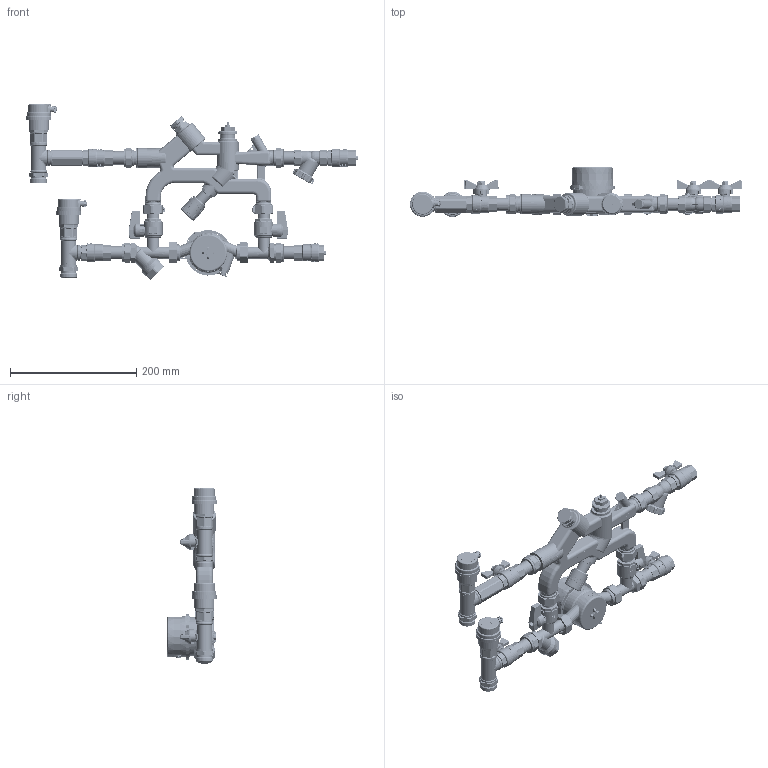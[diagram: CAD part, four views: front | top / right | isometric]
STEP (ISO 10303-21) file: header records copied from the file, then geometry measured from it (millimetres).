
FILE_DESCRIPTION(('TFLEX Exchange Step'),'2;1');
FILE_NAME('VT.CMP.06RS.R.LA.stp', '2023-10-24T19:06:02+03:00',('denis'),('Unknown organisation'),'TFLEX Exchange 2023.0','T-FLEX CAD','Unknown authorisation');
FILE_SCHEMA( ('AUTOMOTIVE_DESIGN { 1 0 10303 214 1 1 1 1 }') );
Length unit declared in the file: millimetre
Products named in the file (1): VT.CMP.06RS.R.LA
Bounding box: 525.53 x 79.2 x 277.67 mm (x, y, z)
Volume: 998446.6 mm3; surface area: 364058.6 mm2
Topology: 93 solids, 95 shells, 15316 faces, 39867 edges, 25400 vertices
Faces by surface type: plane 4934, cylinder 4419, bspline 4137, torus 1163, cone 432, sphere 231
Full cylindrical faces by diameter (mm): 1.5 x2, 2 x5, 2.1 x3, 2.3 x2, 3 x1, 3.2 x1, 3.464 x2, 4 x3, 4.05 x2, 5 x7, 5.5 x3, 5.6 x3, 6 x9, 7.953 x2, 8 x7, 8.5 x3, 8.9 x4, 8.917 x2, 9 x9, 9.332 x2, 10 x4, 11 x2, 11.3 x1, 11.5 x1, 12 x8, 12.5 x4, 13 x1, 13.239 x1, 13.5 x4, 14 x8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
Entity records: 671895 total; most frequent: CARTESIAN_POINT 338713, ORIENTED_EDGE 79460, DIRECTION 51934, EDGE_CURVE 39730, VERTEX_POINT 25392, AXIS2_PLACEMENT_3D 18123, B_SPLINE_CURVE_WITH_KNOTS 16470, EDGE_LOOP 16270
